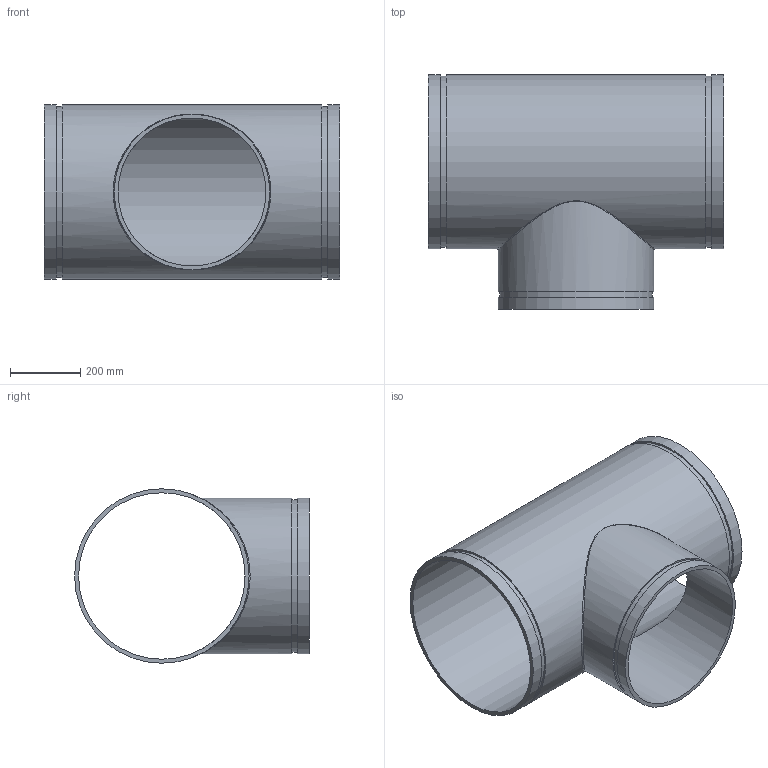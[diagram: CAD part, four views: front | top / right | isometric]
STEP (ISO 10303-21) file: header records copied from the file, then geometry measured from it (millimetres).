
FILE_DESCRIPTION(/* description */ ('VIC REDUCING TEE No 25-C','CAx-IF Rec.Pracs.---Representation and Presentation of Product Manufacturing Information (PMI)---4.0---2014-10-13'),/* implementation_level */ '2;1');
FILE_NAME(/* name */ 'C:\Users\Vjadhav\AppData\Roaming\Autodesk\ApplicationPlugins\Back Up\Victaulic_AWWA_Tee Reducing_No 25-C (DRG)\Victaulic_AWWA_Tee Reducing_No 25-C (DRG)_18.0x16.0 (450x400).stp',/* time_stamp */ '2020-08-18T18:18:33+06:00',/* author */ ('CORINNE GRAY'),/* organization */ ('Victaulic'),/* preprocessor_version */ 'ST-DEVELOPER v17.2',/* originating_system */ 'Autodesk Inventor 2019',/* authorisation */ '');
FILE_SCHEMA (('AP242_MANAGED_MODEL_BASED_3D_ENGINEERING_MIM_LF { 1 0 10303 442 1 1 4 }'));
Length unit declared in the file: inch
Products named in the file (1): 25C-18.0x16.0
Bounding box: 838.2 x 666.75 x 495.3 mm (x, y, z)
Volume: 15536990.9 mm3; surface area: 2941160.2 mm2
Topology: 1 solids, 1 shells, 20 faces, 44 edges, 33 vertices
Faces by surface type: cylinder 10, plane 9, bspline 1
Full cylindrical faces by diameter (mm): 420.116 x1, 433.4 x1, 441.96 x2, 472.948 x1, 485.775 x2, 495.3 x3
Entity records: 1192 total; most frequent: CARTESIAN_POINT 568, DIRECTION 135, ORIENTED_EDGE 90, AXIS2_PLACEMENT_3D 62, EDGE_CURVE 45, VERTEX_POINT 34, EDGE_LOOP 31, CIRCLE 29
